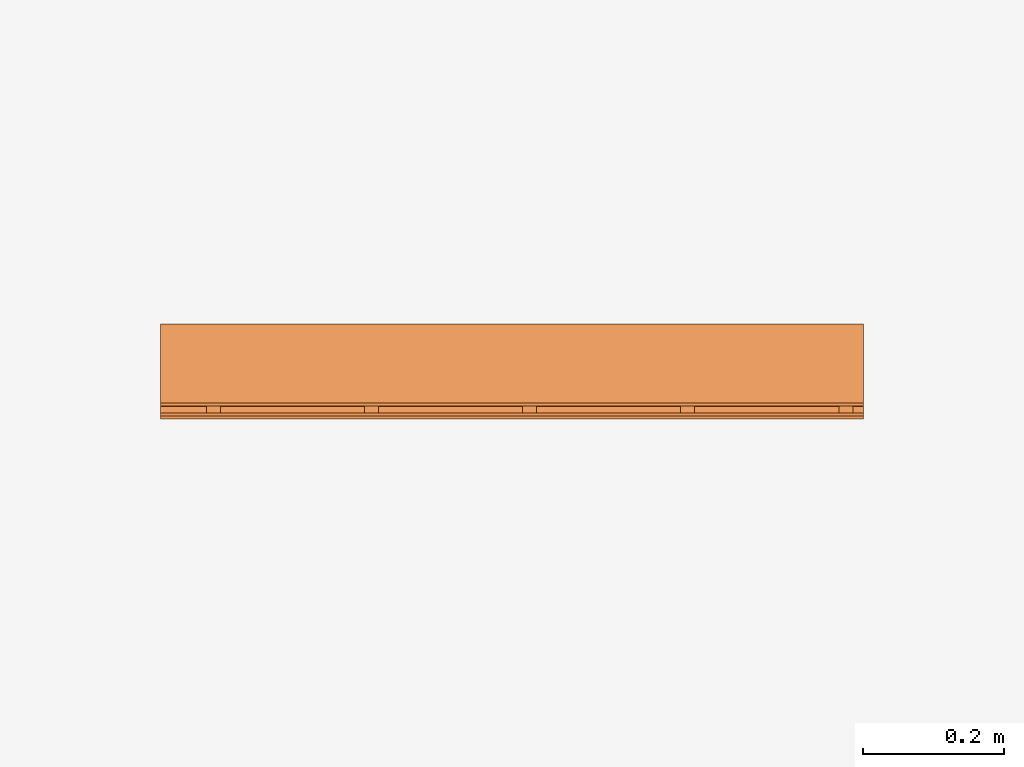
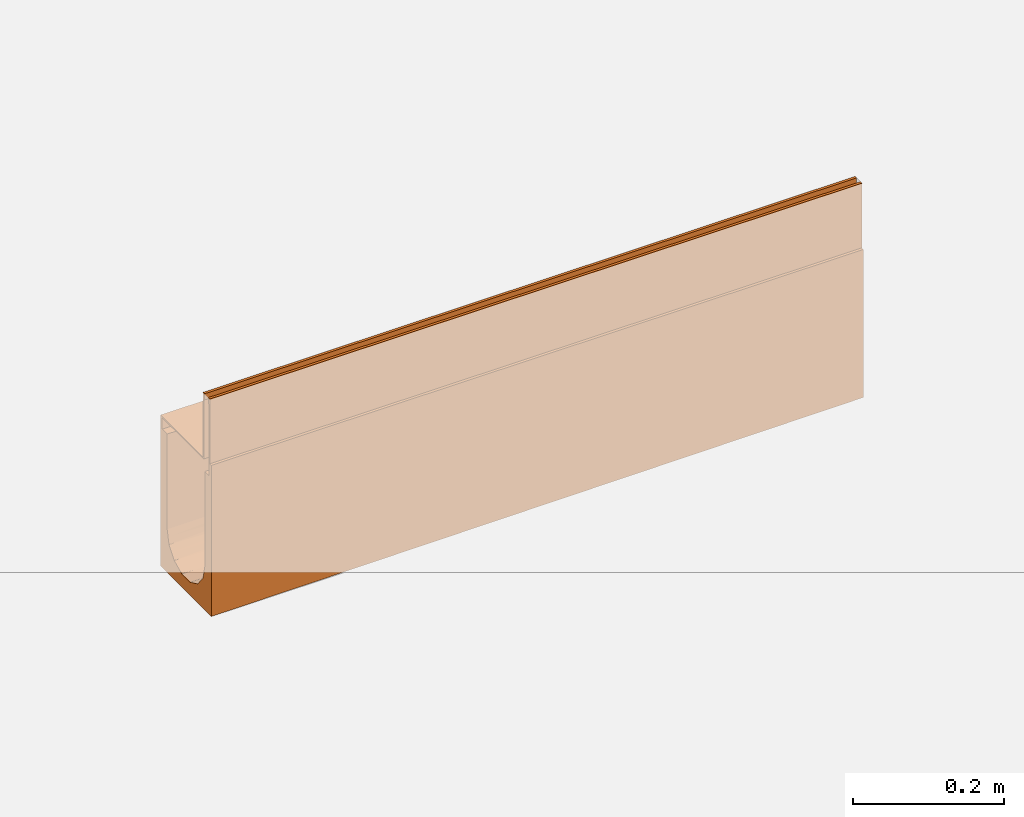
# One storey, part 2 of 2: 1 proxy.
"""IFC2X3 building model written with IfcOpenShell, lengths in millimetres."""

from ifc_helpers import new_model, entity, si_unit, converted_unit, direction, frame, origin, place, context, subcontext, project, spatial, faceted_brep, source, transform, mapped, material, material_list, element, save


model = new_model("IFC2X3")

# Units and contexts
model_context = context("Model", 3, precision=1e-06, world=origin(), true_north=direction((2.0, 6.12303176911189e-17, 1.0)))
context_of_model = context(None, 3, precision=1e-06, world=origin(), true_north=direction((2.0, 6.12303176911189e-17, 1.0)))
body_context = subcontext(model_context, "Body", "Model", "MODEL_VIEW")
ifc_project = project(units=[si_unit("LENGTHUNIT", "METRE", prefix="MILLI"), si_unit("AREAUNIT", "SQUARE_METRE", prefix="MILLI"), si_unit("VOLUMEUNIT", "CUBIC_METRE", prefix="MILLI"), converted_unit("PLANEANGLEUNIT", "DEGREE", entity("IfcRatioMeasure", 0.0174532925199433), si_unit("PLANEANGLEUNIT", "RADIAN"), dimensions=[0, 0, 0, 0, 0, 0, 0]), si_unit("TIMEUNIT", "SECOND")], contexts=[model_context, context_of_model])

# Site, building, storey
site_placement = place(None, origin())
site = spatial("IfcSite", under=ifc_project, at=site_placement, Name="Default", CompositionType="ELEMENT")
building_placement = place(site_placement, origin())
building = spatial("IfcBuilding", under=site, at=building_placement, CompositionType="ELEMENT")
storey_placement = place(building_placement, origin())
storey = spatial("IfcBuildingStorey", under=building, at=storey_placement, Name="Level 1", CompositionType="ELEMENT", Elevation=0.0)

# Proxy
ifc_material_1 = material(Name="Steel, Galvanized")
ifc_material_2 = material(Name="Vienite® Synthetic Resin Concrete")
ifc_material_list = material_list([ifc_material_1, ifc_material_2])
shared_shape = source(origin(), body_context, "Body", "Brep", [
    faceted_brep([(63.249999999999, 15.0, -107.0), (63.249999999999, 17.0, -109.0), (63.249999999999, 33.0, -109.0), (63.249999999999, 35.0, -107.0), (63.249999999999, 17.0, -123.499999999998), (63.249999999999, 15.0, -125.499999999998), (63.249999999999, 33.0, -123.499999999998), (63.249999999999, 35.0, -125.499999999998), (-61.250000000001, 15.0, -125.499999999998), (-61.250000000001, 17.0, -123.499999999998), (-61.250000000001, 33.0, -123.499999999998), (-61.250000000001, 35.0, -125.499999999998), (-61.250000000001, 17.0, -109.0), (-61.250000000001, 15.0, -107.0), (-61.250000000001, 33.0, -109.0), (-61.250000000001, 35.0, -107.0)], [[[0, 1, 2, 3]], [[4, 1, 0, 5]], [[3, 2, 6, 7]], [[6, 4, 5, 7]], [[8, 9, 10, 11]], [[12, 9, 8, 13]], [[11, 10, 14, 15]], [[14, 12, 13, 15]], [[5, 0, 13, 8]], [[7, 5, 8, 11]], [[3, 7, 11, 15]], [[0, 3, 15, 13]], [[1, 4, 9, 12]], [[14, 2, 1, 12]], [[6, 2, 14, 10]], [[9, 4, 6, 10]]]),
    faceted_brep([(-47.2500000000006, 0.0, -10.0), (-47.2500000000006, 0.0, -107.0), (-45.2500000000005, 0.0, -105.0), (-45.2500000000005, 0.0, 0.0), (-49.2500000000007, 0.0, 0.0), (-49.2500000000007, 0.0, -10.0), (63.2499999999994, 0.0, -107.0), (63.2499999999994, 0.0, -105.0), (-45.2500000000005, 1000.0, -105.0), (63.2499999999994, 1000.0, -105.0), (63.2499999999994, 1000.0, -107.0), (-47.2500000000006, 1000.0, -107.0), (-47.2500000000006, 1000.0, -10.0), (-45.2500000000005, 1000.0, 0.0), (-49.2500000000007, 1000.0, -10.0), (-49.2500000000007, 1000.0, 0.0)], [[[0, 1, 2, 3]], [[4, 5, 0, 3]], [[6, 7, 2, 1]], [[8, 9, 10, 11]], [[12, 13, 8, 11]], [[12, 14, 15, 13]], [[0, 5, 14, 12]], [[11, 1, 0, 12]], [[6, 1, 11, 10]], [[9, 7, 6, 10]], [[8, 2, 7, 9]], [[3, 2, 8, 13]], [[15, 4, 3, 13]], [[5, 4, 15, 14]]]),
    faceted_brep([(-59.2500000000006, 1000.0, 0.0), (-59.2500000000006, 1000.0, -10.0), (-61.2500000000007, 1000.0, -10.0), (-63.2500000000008, 1000.0, 0.0), (-63.2500000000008, 1000.0, -125.499999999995), (-61.2500000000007, 1000.0, -125.499999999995), (-61.2500000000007, 0.0, -10.0), (-63.2500000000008, 0.0, 0.0), (-63.2500000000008, 0.0, -125.499999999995), (-61.2500000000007, 0.0, -125.499999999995), (-59.2500000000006, 0.0, 0.0), (-59.2500000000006, 0.0, -10.0)], [[[0, 1, 2, 3]], [[4, 3, 2, 5]], [[6, 7, 8, 9]], [[10, 7, 6, 11]], [[9, 8, 4, 5]], [[6, 9, 5, 2]], [[11, 6, 2, 1]], [[10, 11, 1, 0]], [[3, 7, 10, 0]], [[4, 8, 7, 3]]]),
    faceted_brep([(63.2499999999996, 465.0, -107.0), (63.2499999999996, 467.0, -109.0), (63.2499999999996, 483.0, -109.0), (63.2499999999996, 485.0, -107.0), (63.2499999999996, 467.0, -123.499999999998), (63.2499999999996, 465.0, -125.499999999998), (63.2499999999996, 483.0, -123.499999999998), (63.2499999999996, 485.0, -125.499999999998), (-61.2500000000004, 465.0, -125.499999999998), (-61.2500000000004, 467.0, -123.499999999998), (-61.2500000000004, 483.0, -123.499999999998), (-61.2500000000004, 485.0, -125.499999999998), (-61.2500000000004, 467.0, -109.0), (-61.2500000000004, 465.0, -107.0), (-61.2500000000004, 483.0, -109.0), (-61.2500000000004, 485.0, -107.0)], [[[0, 1, 2, 3]], [[4, 1, 0, 5]], [[3, 2, 6, 7]], [[6, 4, 5, 7]], [[8, 9, 10, 11]], [[12, 9, 8, 13]], [[11, 10, 14, 15]], [[14, 12, 13, 15]], [[5, 0, 13, 8]], [[7, 5, 8, 11]], [[3, 7, 11, 15]], [[0, 3, 15, 13]], [[1, 4, 9, 12]], [[2, 1, 12, 14]], [[6, 2, 14, 10]], [[4, 6, 10, 9]]]),
    faceted_brep([(63.2499999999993, 240.0, -107.0), (63.2499999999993, 242.0, -109.0), (63.2499999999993, 258.0, -109.0), (63.2499999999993, 260.0, -107.0), (63.2499999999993, 242.0, -123.499999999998), (63.2499999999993, 240.0, -125.499999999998), (63.2499999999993, 258.0, -123.499999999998), (63.2499999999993, 260.0, -125.499999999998), (-61.2500000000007, 240.0, -125.499999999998), (-61.2500000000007, 242.0, -123.499999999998), (-61.2500000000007, 258.0, -123.499999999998), (-61.2500000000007, 260.0, -125.499999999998), (-61.2500000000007, 242.0, -109.0), (-61.2500000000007, 240.0, -107.0), (-61.2500000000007, 258.0, -109.0), (-61.2500000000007, 260.0, -107.0)], [[[0, 1, 2, 3]], [[4, 1, 0, 5]], [[3, 2, 6, 7]], [[6, 4, 5, 7]], [[8, 9, 10, 11]], [[12, 9, 8, 13]], [[11, 10, 14, 15]], [[14, 12, 13, 15]], [[5, 0, 13, 8]], [[7, 5, 8, 11]], [[3, 7, 11, 15]], [[0, 3, 15, 13]], [[1, 4, 9, 12]], [[2, 1, 12, 14]], [[6, 2, 14, 10]], [[4, 6, 10, 9]]]),
    faceted_brep([(63.2500000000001, 915.0, -107.0), (63.2500000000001, 917.0, -109.0), (63.2500000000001, 933.0, -109.0), (63.2500000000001, 935.0, -107.0), (63.2500000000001, 917.0, -123.499999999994), (63.2500000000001, 915.0, -125.499999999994), (63.2500000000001, 933.0, -123.499999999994), (63.2500000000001, 935.0, -125.499999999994), (-61.2499999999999, 915.0, -125.499999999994), (-61.2499999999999, 917.0, -123.499999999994), (-61.2499999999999, 933.0, -123.499999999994), (-61.2499999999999, 935.0, -125.499999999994), (-61.2499999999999, 917.0, -109.0), (-61.2499999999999, 915.0, -107.0), (-61.2499999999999, 933.0, -109.0), (-61.2499999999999, 935.0, -107.0)], [[[0, 1, 2, 3]], [[4, 1, 0, 5]], [[3, 2, 6, 7]], [[6, 4, 5, 7]], [[8, 9, 10, 11]], [[12, 9, 8, 13]], [[11, 10, 14, 15]], [[14, 12, 13, 15]], [[5, 0, 13, 8]], [[11, 7, 5, 8]], [[3, 7, 11, 15]], [[13, 0, 3, 15]], [[1, 4, 9, 12]], [[2, 1, 12, 14]], [[6, 2, 14, 10]], [[4, 6, 10, 9]]]),
    faceted_brep([(63.2499999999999, 690.0, -107.0), (63.2499999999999, 692.0, -109.0), (63.2499999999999, 708.0, -109.0), (63.2499999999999, 710.0, -107.0), (63.2499999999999, 692.0, -123.499999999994), (63.2499999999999, 690.0, -125.499999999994), (63.2499999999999, 708.0, -123.499999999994), (63.2499999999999, 710.0, -125.499999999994), (-61.2500000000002, 690.0, -125.499999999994), (-61.2500000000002, 692.0, -123.499999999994), (-61.2500000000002, 708.0, -123.499999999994), (-61.2500000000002, 710.0, -125.499999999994), (-61.2500000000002, 692.0, -109.0), (-61.2500000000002, 690.0, -107.0), (-61.2500000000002, 708.0, -109.0), (-61.2500000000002, 710.0, -107.0)], [[[0, 1, 2, 3]], [[4, 1, 0, 5]], [[3, 2, 6, 7]], [[6, 4, 5, 7]], [[8, 9, 10, 11]], [[12, 9, 8, 13]], [[11, 10, 14, 15]], [[14, 12, 13, 15]], [[5, 0, 13, 8]], [[11, 7, 5, 8]], [[3, 7, 11, 15]], [[13, 0, 3, 15]], [[1, 4, 9, 12]], [[2, 1, 12, 14]], [[6, 2, 14, 10]], [[4, 6, 10, 9]]]),
    faceted_brep([(-67.4999999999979, 1000.0, -105.0), (-63.2499999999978, 1000.0, -105.0), (-63.2499999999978, 1000.0, -125.500000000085), (-67.4999999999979, 1000.0, -350.0), (-50.0, 1000.0, -125.500000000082), (-50.0, 1000.0, -280.0), (-47.5242216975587, 1000.0, -290.847093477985), (-45.0484433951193, 1000.0, -301.694186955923), (-31.1744900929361, 1000.0, -319.091574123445), (-21.1502683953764, 1000.0, -323.91898486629), (-11.1260466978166, 1000.0, -328.746395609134), (-38.1114667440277, 1000.0, -310.392880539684), (0.0, 1000.0, -328.746395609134), (11.126046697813, 1000.0, -328.746395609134), (50.0, 1000.0, -280.0), (50.0, 1000.0, -125.500000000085), (63.249999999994, 1000.0, -125.500000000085), (67.500000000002, 1000.0, -350.0), (63.249999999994, 1000.0, -105.0), (67.500000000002, 1000.0, -105.0), (21.1502683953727, 1000.0, -323.91898486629), (31.1744900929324, 1000.0, -319.091574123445), (45.0484433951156, 1000.0, -301.694186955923), (47.5242216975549, 1000.0, -290.847093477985), (38.111466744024, 1000.0, -310.392880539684), (-67.5000000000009, 0.0, -345.0), (-45.0484433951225, 0.0, -296.694186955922), (-46.5542373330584, 0.0, -290.096872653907), (-50.0, 0.0, -275.0), (-31.1744900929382, 0.0, -314.091574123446), (-38.1114667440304, 0.0, -305.392880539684), (-11.1260466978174, 0.0, -323.746395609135), (-21.1502683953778, 0.0, -318.91898486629), (11.1260466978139, 0.0, -323.746395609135), (0.0, 0.0, -323.746395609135), (67.4999999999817, 0.0, -345.0), (-63.2499999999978, 0.0, -125.500000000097), (-63.2499999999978, 0.0, -105.0), (-67.5000000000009, 0.0, -105.0), (-50.0, 0.0, -125.500000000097), (31.1744900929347, 0.0, -314.091574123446), (21.1502683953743, 0.0, -318.91898486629), (50.0, 0.0, -275.0), (46.5542371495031, 0.0, -290.096873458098), (45.0484433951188, 0.0, -296.694186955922), (38.1114667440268, 0.0, -305.392880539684), (63.2500000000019, 0.0, -125.500000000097), (50.0, 0.0, -125.500000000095), (67.4999999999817, 0.0, -105.0), (63.2500000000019, 0.0, -105.0), (-50.0, 250.000013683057, -276.250000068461), (-35.5430016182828, 477.55479373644, -312.554449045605), (-39.0915746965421, 301.904841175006, -307.684013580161), (-30.4065854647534, 315.866317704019, -316.271138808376), (39.0915767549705, 653.204744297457, -309.44051051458), (43.1307072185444, 488.864082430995, -302.737443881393), (44.2106003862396, 635.514288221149, -301.531860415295), (-39.0915747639, 653.204746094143, -309.440513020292), (-29.696093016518, 646.565597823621, -318.458964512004), (-47.3876306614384, 374.999991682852, -292.82531219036), (-48.89171460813, 518.387005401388, -288.060948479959), (-2.91588081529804e-06, 301.904832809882, -326.509524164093), (-10.9684170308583, 305.042894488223, -325.307320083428), (-5.5982252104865, 150.952413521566, -325.440372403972), (12.0741057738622, 315.866299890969, -325.099594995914), (5.33371147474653, 477.554791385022, -327.10247522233), (35.3553400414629, 150.952387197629, -311.110100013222), (-41.8233658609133, 146.584549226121, -303.133763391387), (42.1728888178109, 829.135588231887, -306.005451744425), (47.0016510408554, 843.632235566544, -296.272333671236), (-50.0, 749.999986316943, -278.749999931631), (-47.0016499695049, 843.632222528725, -296.27233655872), (-21.6941880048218, 209.065851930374, -321.093772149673), (-35.3553394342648, 150.952420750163, -311.110100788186), (-34.4525207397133, 816.145858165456, -315.316399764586), (-25.646806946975, 806.214865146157, -321.952412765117), (21.6941814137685, 500.0, -322.548446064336), (29.6960925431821, 646.565642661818, -318.458965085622), (16.1554098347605, 747.818208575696, -326.057192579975), (-3.27550310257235e-06, 653.204751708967, -328.266023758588), (-8.54111809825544, 477.617179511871, -326.653178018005), (21.6941852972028, 209.065841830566, -321.093773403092), (-46.4228776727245, 186.188946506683, -294.502870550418), (34.4525215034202, 816.145876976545, -315.316399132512), (49.2918467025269, 134.881431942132, -284.0597424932), (47.3876313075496, 374.999975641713, -292.825310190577), (46.4228780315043, 186.188933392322, -294.502869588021), (-50.0, 499.999972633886, -277.499999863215), (39.0915763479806, 301.904795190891, -307.684011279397), (41.8233665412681, 146.584526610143, -303.133762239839), (25.6468067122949, 806.214870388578, -321.952412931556), (-5.38536224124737, 826.602379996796, -328.842144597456), (-16.1554121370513, 747.81816965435, -326.057191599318), (35.5430053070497, 477.554758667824, -312.554445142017), (-42.1728873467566, 829.135597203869, -306.005454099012), (5.59822218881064, 150.952412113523, -325.440372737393), (30.4065855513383, 315.866251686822, -316.271138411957), (-43.1307054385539, 488.864104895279, -302.737447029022), (-44.2105988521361, 635.514296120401, -301.531863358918), (-49.2918465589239, 134.881438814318, -284.059743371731), (-47.7236140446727, 671.453379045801, -293.272248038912), (48.8917149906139, 518.386993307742, -288.060946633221), (50.0, 250.000027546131, -276.250000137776), (50.0, 499.999944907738, -277.499999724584), (50.0, 749.999972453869, -278.749999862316), (47.7236147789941, 671.453375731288, -293.272245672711), (-22.9273943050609, 354.532924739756, -321.206149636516), (-21.6941890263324, 500.0, -322.548442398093), (5.80423086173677, 807.818012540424, -328.701056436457), (22.9273914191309, 354.532889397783, -321.206150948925)], [[[0, 1, 2, 3]], [[2, 4, 5, 3]], [[3, 5, 6, 7]], [[3, 8, 9, 10]], [[3, 7, 11, 8]], [[3, 10, 12, 13]], [[14, 15, 16, 17]], [[16, 18, 19, 17]], [[17, 13, 20, 21]], [[17, 22, 23, 14]], [[17, 21, 24, 22]], [[13, 17, 3]], [[25, 26, 27, 28]], [[25, 29, 30, 26]], [[25, 31, 32, 29]], [[33, 34, 25, 35]], [[36, 37, 38, 25]], [[28, 39, 36, 25]], [[35, 40, 41, 33]], [[35, 42, 43, 44]], [[35, 44, 45, 40]], [[46, 47, 42, 35]], [[48, 49, 46, 35]], [[1, 37, 36, 2]], [[0, 38, 37, 1]], [[0, 3, 25, 38]], [[3, 17, 35, 25]], [[19, 48, 35, 17]], [[18, 49, 48, 19]], [[16, 46, 49, 18]], [[16, 15, 47, 46]], [[4, 39, 28, 50]], [[2, 36, 39, 4]], [[51, 52, 53]], [[54, 55, 56]], [[57, 51, 58]], [[59, 60, 50]], [[61, 62, 63]], [[61, 64, 65]], [[40, 45, 66]], [[30, 67, 26]], [[68, 69, 22]], [[70, 71, 6]], [[29, 72, 73]], [[74, 75, 8]], [[76, 77, 78]], [[65, 79, 80]], [[66, 81, 40]], [[27, 26, 82]], [[24, 83, 68]], [[84, 85, 86]], [[87, 50, 60, 70]], [[88, 66, 89]], [[58, 75, 74]], [[83, 90, 77]], [[91, 10, 92]], [[76, 93, 77]], [[54, 93, 55]], [[94, 57, 74]], [[30, 73, 67]], [[63, 72, 31]], [[61, 63, 95]], [[72, 53, 73]], [[45, 89, 66]], [[93, 76, 96]], [[97, 98, 60]], [[27, 82, 99]], [[52, 51, 97]], [[98, 94, 71]], [[98, 71, 100]], [[101, 102, 103, 104]], [[102, 101, 85]], [[84, 86, 43]], [[104, 69, 105]], [[69, 68, 56]], [[28, 27, 99]], [[52, 59, 82]], [[99, 59, 50]], [[72, 29, 32, 31]], [[29, 73, 30]], [[67, 52, 82]], [[95, 34, 33]], [[73, 53, 52]], [[72, 106, 53]], [[107, 58, 51]], [[107, 51, 53]], [[97, 51, 57]], [[58, 107, 92]], [[74, 57, 58]], [[80, 92, 107]], [[79, 108, 91]], [[98, 97, 57]], [[52, 97, 59]], [[52, 67, 73]], [[26, 67, 82]], [[92, 10, 9]], [[74, 11, 94]], [[92, 9, 75]], [[94, 7, 71]], [[75, 58, 92]], [[59, 99, 82]], [[28, 99, 50]], [[11, 74, 8]], [[11, 7, 94]], [[8, 75, 9]], [[70, 6, 5]], [[71, 70, 100]], [[71, 7, 6]], [[43, 86, 44]], [[42, 102, 84]], [[88, 86, 85]], [[42, 84, 43]], [[85, 84, 102]], [[81, 66, 96]], [[86, 89, 44]], [[81, 33, 41, 40]], [[96, 66, 88]], [[95, 64, 61]], [[93, 96, 88]], [[109, 81, 96]], [[55, 88, 85]], [[93, 54, 77]], [[54, 83, 77]], [[90, 78, 77]], [[12, 91, 108]], [[65, 78, 79]], [[88, 55, 93]], [[55, 85, 101]], [[44, 89, 45]], [[88, 89, 86]], [[68, 83, 54]], [[20, 90, 21]], [[68, 54, 56]], [[24, 21, 83]], [[78, 20, 13]], [[68, 22, 24]], [[21, 90, 83]], [[20, 78, 90]], [[101, 104, 105]], [[104, 23, 69]], [[23, 104, 14]], [[91, 92, 79]], [[23, 22, 69]], [[63, 31, 34]], [[33, 81, 95]], [[64, 95, 81]], [[109, 64, 81]], [[76, 78, 65]], [[76, 65, 64]], [[79, 92, 80]], [[107, 106, 62]], [[61, 65, 80]], [[95, 63, 34]], [[61, 80, 62]], [[107, 62, 80]], [[72, 63, 62]], [[97, 60, 59]], [[70, 60, 100]], [[101, 105, 56]], [[62, 106, 72]], [[107, 53, 106]], [[94, 98, 57]], [[60, 98, 100]], [[96, 76, 109]], [[64, 109, 76]], [[101, 56, 55]], [[56, 105, 69]], [[108, 79, 78]], [[10, 91, 12]], [[78, 13, 108]], [[12, 108, 13]], [[15, 14, 104, 103]], [[47, 15, 42]], [[25, 34, 31]], [[4, 50, 87, 70]], [[4, 70, 5]], [[15, 103, 102, 42]]]),
])
proxy_placement = place(storey_placement, frame((143.656586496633, 99.9218925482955, 0.0), z_axis=(0.0, 0.0, 1.0), x_axis=(0.0, 1.0, 0.0)))
element("IfcBuildingElementProxy", 1, at=proxy_placement, inside=storey, material=ifc_material_list, Name="Civil-Drainage-Channel-ACO-MultiDrain-M100D-Brickslot-Channel-System:23019 - No 19 Sloping Channel - 1000mm LG - Invert Depth 220/225mm:23019 - No 19 Sloping Channel - 1000mm LG - Invert Depth 220/225mm", ObjectType="23019 - No 19 Sloping Channel - 1000mm LG - Invert Depth 220/225mm", CompositionType="ELEMENT", context=body_context, shape_type="MappedRepresentation", body=[
    mapped(shared_shape, transform((0.0, 0.0, 0.0), scale=1.0)),
])

save(model, "model.ifc")
